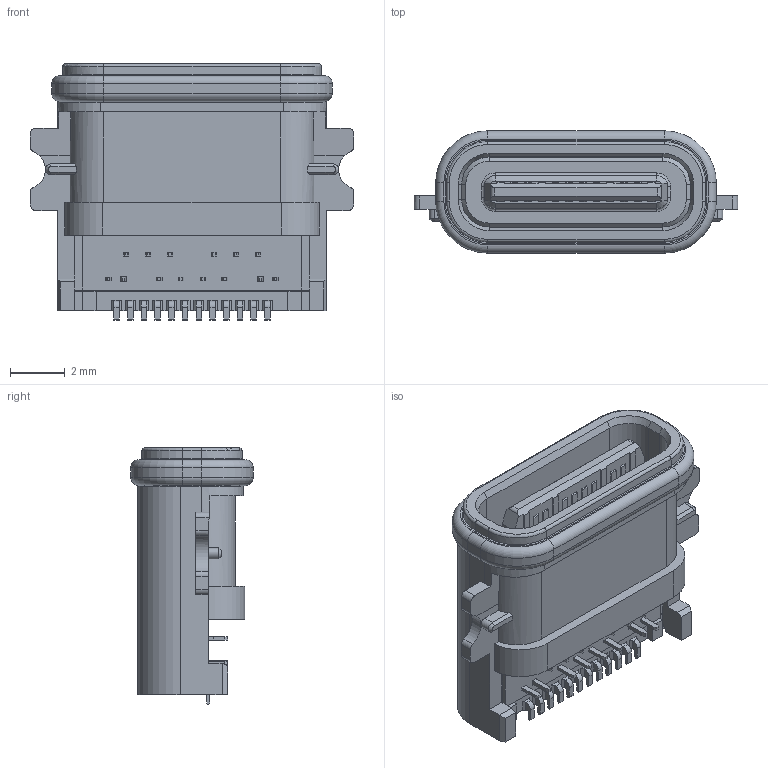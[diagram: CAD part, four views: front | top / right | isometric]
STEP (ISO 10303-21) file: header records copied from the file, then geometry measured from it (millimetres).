
FILE_DESCRIPTION (( 'STEP AP203' ), '1' );
FILE_NAME ('GT-USB-9062A.stp', '2025-01-17T03:07:51', ( '' ), ( '' ), 'SwSTEP 2.0', 'SolidWorks 2023', '' );
FILE_SCHEMA (( 'CONFIG_CONTROL_DESIGN' ));
Length unit declared in the file: millimetre
Products named in the file (1): GT-USB-9062A
Bounding box: 11.8 x 4.46 x 9.35 mm (x, y, z)
Volume: 210.2 mm3; surface area: 636.7 mm2
Topology: 19 solids, 79 shells, 1733 faces, 4487 edges, 2932 vertices
Faces by surface type: plane 1377, cylinder 215, bspline 74, torus 40, cone 27
Entity records: 55975 total; most frequent: CARTESIAN_POINT 14154, ORIENTED_EDGE 8974, DIRECTION 7942, EDGE_CURVE 4487, VECTOR 3606, LINE 3606, VERTEX_POINT 2932, AXIS2_PLACEMENT_3D 2168
